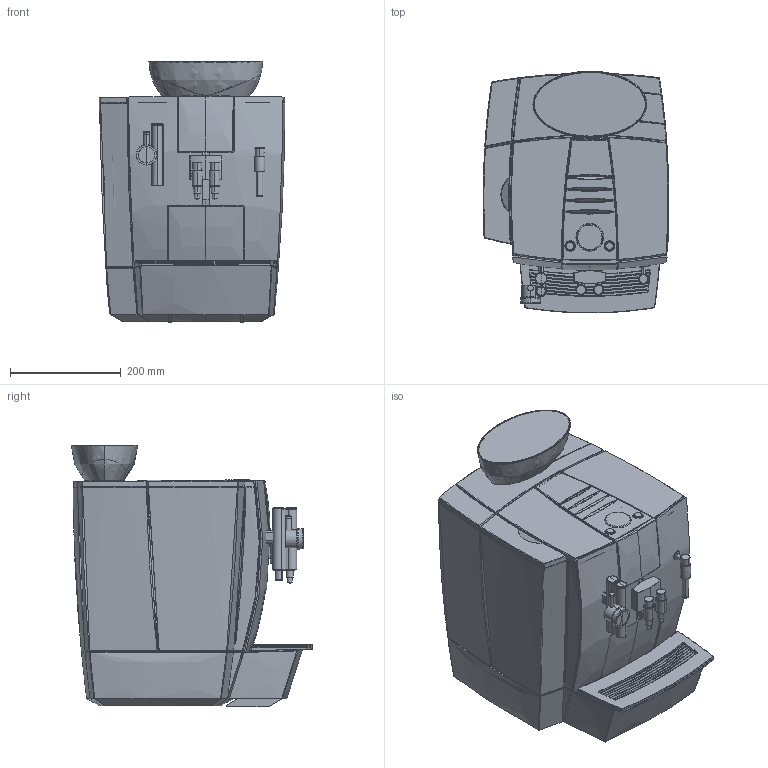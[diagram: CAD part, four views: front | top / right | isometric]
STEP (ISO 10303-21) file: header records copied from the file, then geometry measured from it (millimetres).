
FILE_DESCRIPTION (( 'STEP AP214' ), '1' );
FILE_NAME ('Impressa_XJ9_Professional.STEP', '2012-12-19T15:55:54', ( '' ), ( '' ), 'SwSTEP 2.0', 'SolidWorks 2012', '' );
FILE_SCHEMA (( 'AUTOMOTIVE_DESIGN' ));
Length unit declared in the file: millimetre
Products named in the file (1): Impressa_XJ9_Professional
Bounding box: 334.89 x 435.64 x 472 mm (x, y, z)
Volume: 40489279.7 mm3; surface area: 2175589.6 mm2
Topology: 33 solids, 35 shells, 1911 faces, 4694 edges, 2855 vertices
Faces by surface type: bspline 573, plane 385, torus 350, cylinder 290, cone 239, sphere 74
Entity records: 98866 total; most frequent: CARTESIAN_POINT 58179, ORIENTED_EDGE 9288, DIRECTION 7316, EDGE_CURVE 4644, AXIS2_PLACEMENT_3D 3174, VERTEX_POINT 2837, EDGE_LOOP 1979, FACE_OUTER_BOUND 1911
